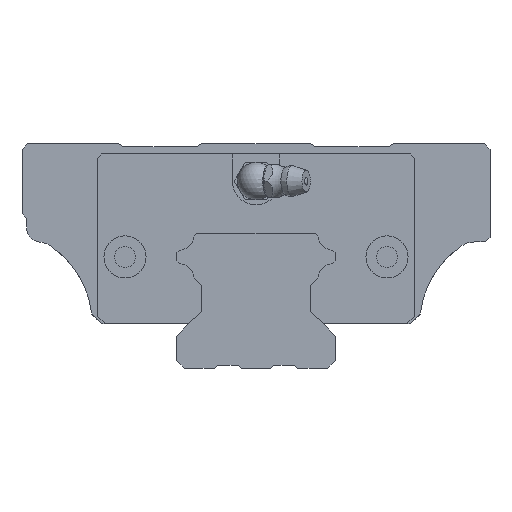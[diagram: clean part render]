
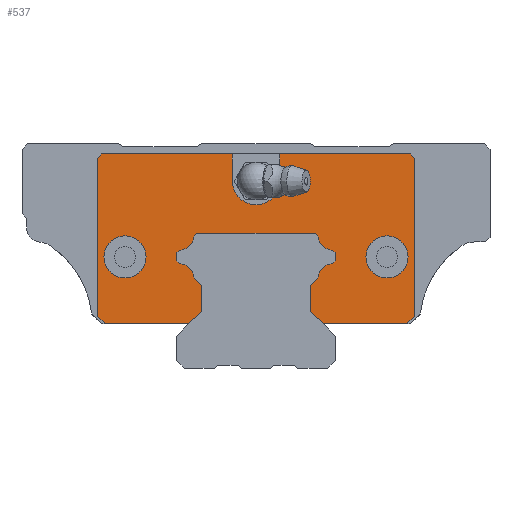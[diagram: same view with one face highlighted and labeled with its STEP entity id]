
A CAD part, front view. The second image highlights one B-rep face of the part: STEP entity #537.
In plain terms, the highlighted planar face has unit normal (0, -1, 0).
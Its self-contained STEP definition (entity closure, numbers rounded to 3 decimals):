
#214=FACE_BOUND('',#1125,.T.);
#215=FACE_BOUND('',#1126,.T.);
#343=CIRCLE('',#4285,3.5);
#345=CIRCLE('',#4291,3.5);
#347=CIRCLE('',#4297,3.5);
#349=CIRCLE('',#4303,3.5);
#359=CIRCLE('',#4348,4.5);
#360=CIRCLE('',#4349,4.5);
#361=CIRCLE('',#4350,5.05);
#537=ADVANCED_FACE('',(#214,#215,#904),#714,.F.);
#714=PLANE('',#4351);
#904=FACE_OUTER_BOUND('',#1127,.T.);
#1125=EDGE_LOOP('',(#1900));
#1126=EDGE_LOOP('',(#1901));
#1127=EDGE_LOOP('',(#1902,#1903,#1904,#1905,#1906,#1907,#1908,#1909,#1910,
#1911,#1912,#1913,#1914,#1915,#1916,#1917,#1918,#1919,#1920,#1921,#1922,
#1923,#1924,#1925,#1926,#1927,#1928,#1929,#1930,#1931,#1932,#1933));
#1900=ORIENTED_EDGE('',*,*,#3144,.F.);
#1901=ORIENTED_EDGE('',*,*,#3145,.F.);
#1902=ORIENTED_EDGE('',*,*,#3146,.F.);
#1903=ORIENTED_EDGE('',*,*,#3147,.F.);
#1904=ORIENTED_EDGE('',*,*,#3148,.T.);
#1905=ORIENTED_EDGE('',*,*,#3141,.F.);
#1906=ORIENTED_EDGE('',*,*,#3149,.F.);
#1907=ORIENTED_EDGE('',*,*,#3150,.F.);
#1908=ORIENTED_EDGE('',*,*,#3151,.T.);
#1909=ORIENTED_EDGE('',*,*,#3009,.T.);
#1910=ORIENTED_EDGE('',*,*,#3014,.T.);
#1911=ORIENTED_EDGE('',*,*,#3017,.F.);
#1912=ORIENTED_EDGE('',*,*,#3020,.F.);
#1913=ORIENTED_EDGE('',*,*,#3023,.T.);
#1914=ORIENTED_EDGE('',*,*,#3026,.F.);
#1915=ORIENTED_EDGE('',*,*,#3029,.F.);
#1916=ORIENTED_EDGE('',*,*,#3032,.T.);
#1917=ORIENTED_EDGE('',*,*,#3035,.T.);
#1918=ORIENTED_EDGE('',*,*,#3038,.T.);
#1919=ORIENTED_EDGE('',*,*,#3041,.T.);
#1920=ORIENTED_EDGE('',*,*,#3044,.F.);
#1921=ORIENTED_EDGE('',*,*,#3047,.T.);
#1922=ORIENTED_EDGE('',*,*,#3050,.F.);
#1923=ORIENTED_EDGE('',*,*,#3053,.T.);
#1924=ORIENTED_EDGE('',*,*,#3056,.T.);
#1925=ORIENTED_EDGE('',*,*,#3059,.T.);
#1926=ORIENTED_EDGE('',*,*,#3062,.T.);
#1927=ORIENTED_EDGE('',*,*,#3065,.T.);
#1928=ORIENTED_EDGE('',*,*,#3068,.F.);
#1929=ORIENTED_EDGE('',*,*,#3072,.F.);
#1930=ORIENTED_EDGE('',*,*,#3152,.T.);
#1931=ORIENTED_EDGE('',*,*,#3153,.F.);
#1932=ORIENTED_EDGE('',*,*,#3154,.F.);
#1933=ORIENTED_EDGE('',*,*,#3138,.F.);
#2554=VERTEX_POINT('',#6307);
#2555=VERTEX_POINT('',#6309);
#2558=VERTEX_POINT('',#6317);
#2560=VERTEX_POINT('',#6323);
#2562=VERTEX_POINT('',#6329);
#2564=VERTEX_POINT('',#6335);
#2566=VERTEX_POINT('',#6341);
#2568=VERTEX_POINT('',#6347);
#2570=VERTEX_POINT('',#6353);
#2572=VERTEX_POINT('',#6359);
#2574=VERTEX_POINT('',#6365);
#2576=VERTEX_POINT('',#6371);
#2578=VERTEX_POINT('',#6377);
#2580=VERTEX_POINT('',#6383);
#2582=VERTEX_POINT('',#6389);
#2584=VERTEX_POINT('',#6395);
#2586=VERTEX_POINT('',#6401);
#2588=VERTEX_POINT('',#6407);
#2590=VERTEX_POINT('',#6413);
#2592=VERTEX_POINT('',#6419);
#2594=VERTEX_POINT('',#6425);
#2597=VERTEX_POINT('',#6433);
#2637=VERTEX_POINT('',#6569);
#2638=VERTEX_POINT('',#6571);
#2639=VERTEX_POINT('',#6574);
#2640=VERTEX_POINT('',#6576);
#2642=VERTEX_POINT('',#6582);
#2643=VERTEX_POINT('',#6584);
#2644=VERTEX_POINT('',#6586);
#2645=VERTEX_POINT('',#6588);
#2646=VERTEX_POINT('',#6591);
#2647=VERTEX_POINT('',#6593);
#2648=VERTEX_POINT('',#6596);
#2649=VERTEX_POINT('',#6598);
#3009=EDGE_CURVE('',#2555,#2554,#3492,.T.);
#3014=EDGE_CURVE('',#2554,#2558,#3497,.T.);
#3017=EDGE_CURVE('',#2560,#2558,#3500,.T.);
#3020=EDGE_CURVE('',#2562,#2560,#3503,.T.);
#3023=EDGE_CURVE('',#2562,#2564,#343,.T.);
#3026=EDGE_CURVE('',#2566,#2564,#3507,.T.);
#3029=EDGE_CURVE('',#2568,#2566,#3510,.T.);
#3032=EDGE_CURVE('',#2568,#2570,#3513,.T.);
#3035=EDGE_CURVE('',#2570,#2572,#345,.T.);
#3038=EDGE_CURVE('',#2572,#2574,#3517,.T.);
#3041=EDGE_CURVE('',#2574,#2576,#3520,.T.);
#3044=EDGE_CURVE('',#2578,#2576,#3523,.T.);
#3047=EDGE_CURVE('',#2578,#2580,#347,.T.);
#3050=EDGE_CURVE('',#2582,#2580,#3527,.T.);
#3053=EDGE_CURVE('',#2582,#2584,#3530,.T.);
#3056=EDGE_CURVE('',#2584,#2586,#3533,.T.);
#3059=EDGE_CURVE('',#2586,#2588,#349,.T.);
#3062=EDGE_CURVE('',#2588,#2590,#3537,.T.);
#3065=EDGE_CURVE('',#2590,#2592,#3540,.T.);
#3068=EDGE_CURVE('',#2594,#2592,#3543,.T.);
#3072=EDGE_CURVE('',#2597,#2594,#3547,.T.);
#3138=EDGE_CURVE('',#2637,#2638,#3604,.T.);
#3141=EDGE_CURVE('',#2639,#2640,#3607,.T.);
#3144=EDGE_CURVE('',#2642,#2642,#359,.T.);
#3145=EDGE_CURVE('',#2643,#2643,#360,.T.);
#3146=EDGE_CURVE('',#2644,#2637,#3610,.T.);
#3147=EDGE_CURVE('',#2645,#2644,#361,.T.);
#3148=EDGE_CURVE('',#2645,#2640,#3611,.T.);
#3149=EDGE_CURVE('',#2646,#2639,#3612,.T.);
#3150=EDGE_CURVE('',#2647,#2646,#3613,.T.);
#3151=EDGE_CURVE('',#2647,#2555,#3614,.T.);
#3152=EDGE_CURVE('',#2597,#2648,#3615,.T.);
#3153=EDGE_CURVE('',#2649,#2648,#3616,.T.);
#3154=EDGE_CURVE('',#2638,#2649,#3617,.T.);
#3492=LINE('',#6308,#3886);
#3497=LINE('',#6318,#3891);
#3500=LINE('',#6324,#3894);
#3503=LINE('',#6330,#3897);
#3507=LINE('',#6342,#3901);
#3510=LINE('',#6348,#3904);
#3513=LINE('',#6354,#3907);
#3517=LINE('',#6366,#3911);
#3520=LINE('',#6372,#3914);
#3523=LINE('',#6378,#3917);
#3527=LINE('',#6390,#3921);
#3530=LINE('',#6396,#3924);
#3533=LINE('',#6402,#3927);
#3537=LINE('',#6414,#3931);
#3540=LINE('',#6420,#3934);
#3543=LINE('',#6426,#3937);
#3547=LINE('',#6434,#3941);
#3604=LINE('',#6570,#3998);
#3607=LINE('',#6575,#4001);
#3610=LINE('',#6585,#4004);
#3611=LINE('',#6589,#4005);
#3612=LINE('',#6590,#4006);
#3613=LINE('',#6592,#4007);
#3614=LINE('',#6594,#4008);
#3615=LINE('',#6595,#4009);
#3616=LINE('',#6597,#4010);
#3617=LINE('',#6599,#4011);
#3886=VECTOR('',#4916,1.);
#3891=VECTOR('',#4923,1.);
#3894=VECTOR('',#4928,1.);
#3897=VECTOR('',#4933,1.);
#3901=VECTOR('',#4945,1.);
#3904=VECTOR('',#4950,1.);
#3907=VECTOR('',#4955,1.);
#3911=VECTOR('',#4967,1.);
#3914=VECTOR('',#4972,1.);
#3917=VECTOR('',#4977,1.);
#3921=VECTOR('',#4989,1.);
#3924=VECTOR('',#4994,1.);
#3927=VECTOR('',#4999,1.);
#3931=VECTOR('',#5011,1.);
#3934=VECTOR('',#5016,1.);
#3937=VECTOR('',#5021,1.);
#3941=VECTOR('',#5027,1.);
#3998=VECTOR('',#5162,1.);
#4001=VECTOR('',#5165,1.);
#4004=VECTOR('',#5174,1.);
#4005=VECTOR('',#5177,1.);
#4006=VECTOR('',#5178,1.);
#4007=VECTOR('',#5179,1.);
#4008=VECTOR('',#5180,1.);
#4009=VECTOR('',#5181,1.);
#4010=VECTOR('',#5182,1.);
#4011=VECTOR('',#5183,1.);
#4285=AXIS2_PLACEMENT_3D('',#6336,#4939,#4940);
#4291=AXIS2_PLACEMENT_3D('',#6360,#4961,#4962);
#4297=AXIS2_PLACEMENT_3D('',#6384,#4983,#4984);
#4303=AXIS2_PLACEMENT_3D('',#6408,#5005,#5006);
#4348=AXIS2_PLACEMENT_3D('',#6581,#5170,#5171);
#4349=AXIS2_PLACEMENT_3D('',#6583,#5172,#5173);
#4350=AXIS2_PLACEMENT_3D('',#6587,#5175,#5176);
#4351=AXIS2_PLACEMENT_3D('',#6600,#5184,#5185);
#4916=DIRECTION('',(1.,0.,0.));
#4923=DIRECTION('',(0.707,0.,0.707));
#4928=DIRECTION('',(0.,0.,-1.));
#4933=DIRECTION('',(0.707,0.,-0.707));
#4939=DIRECTION('',(0.,-1.,0.));
#4940=DIRECTION('',(1.,0.,0.));
#4945=DIRECTION('',(0.707,0.,-0.707));
#4950=DIRECTION('',(0.,0.,-1.));
#4955=DIRECTION('',(0.707,0.,0.707));
#4961=DIRECTION('',(0.,-1.,0.));
#4962=DIRECTION('',(1.,0.,0.));
#4967=DIRECTION('',(0.707,0.,0.707));
#4972=DIRECTION('',(1.,0.,0.));
#4977=DIRECTION('',(-0.707,0.,0.707));
#4983=DIRECTION('',(0.,-1.,0.));
#4984=DIRECTION('',(1.,0.,0.));
#4989=DIRECTION('',(-0.707,0.,0.707));
#4994=DIRECTION('',(0.,0.,-1.));
#4999=DIRECTION('',(-0.707,0.,-0.707));
#5005=DIRECTION('',(0.,-1.,0.));
#5006=DIRECTION('',(1.,0.,0.));
#5011=DIRECTION('',(-0.707,0.,-0.707));
#5016=DIRECTION('',(0.,0.,-1.));
#5021=DIRECTION('',(-0.707,0.,0.707));
#5027=DIRECTION('',(-1.,0.,0.));
#5162=DIRECTION('',(1.,0.,0.));
#5165=DIRECTION('',(1.,0.,0.));
#5170=DIRECTION('',(0.,-1.,0.));
#5171=DIRECTION('',(0.,0.,-1.));
#5172=DIRECTION('',(0.,-1.,0.));
#5173=DIRECTION('',(0.,0.,-1.));
#5174=DIRECTION('',(0.,0.,1.));
#5175=DIRECTION('',(0.,-1.,0.));
#5176=DIRECTION('',(1.,0.,0.));
#5177=DIRECTION('',(0.,0.,1.));
#5178=DIRECTION('',(0.707,0.,0.707));
#5179=DIRECTION('',(0.,0.,1.));
#5180=DIRECTION('',(0.707,0.,-0.707));
#5181=DIRECTION('',(0.707,0.,0.707));
#5182=DIRECTION('',(0.,0.,-1.));
#5183=DIRECTION('',(0.707,0.,-0.707));
#5184=DIRECTION('',(0.,1.,0.));
#5185=DIRECTION('',(0.,0.,-1.));
#6307=CARTESIAN_POINT('',(-14.359,-99.1,-40.5));
#6308=CARTESIAN_POINT('',(-32.218,-99.1,-40.5));
#6309=CARTESIAN_POINT('',(-32.218,-99.1,-40.5));
#6317=CARTESIAN_POINT('',(-11.7,-99.1,-37.841));
#6318=CARTESIAN_POINT('',(-14.359,-99.1,-40.5));
#6323=CARTESIAN_POINT('',(-11.7,-99.1,-32.259));
#6324=CARTESIAN_POINT('',(-11.7,-99.1,-32.259));
#6329=CARTESIAN_POINT('',(-13.204,-99.1,-30.754));
#6330=CARTESIAN_POINT('',(-13.204,-99.1,-30.754));
#6335=CARTESIAN_POINT('',(-16.354,-99.1,-27.604));
#6336=CARTESIAN_POINT('',(-16.688,-99.1,-31.088));
#6341=CARTESIAN_POINT('',(-16.9,-99.1,-27.059));
#6342=CARTESIAN_POINT('',(-16.9,-99.1,-27.059));
#6347=CARTESIAN_POINT('',(-16.9,-99.1,-25.341));
#6348=CARTESIAN_POINT('',(-16.9,-99.1,-25.341));
#6353=CARTESIAN_POINT('',(-16.354,-99.1,-24.796));
#6354=CARTESIAN_POINT('',(-16.9,-99.1,-25.341));
#6359=CARTESIAN_POINT('',(-13.204,-99.1,-21.646));
#6360=CARTESIAN_POINT('',(-16.688,-99.1,-21.312));
#6365=CARTESIAN_POINT('',(-12.659,-99.1,-21.1));
#6366=CARTESIAN_POINT('',(-13.204,-99.1,-21.646));
#6371=CARTESIAN_POINT('',(12.659,-99.1,-21.1));
#6372=CARTESIAN_POINT('',(-12.659,-99.1,-21.1));
#6377=CARTESIAN_POINT('',(13.204,-99.1,-21.646));
#6378=CARTESIAN_POINT('',(13.204,-99.1,-21.646));
#6383=CARTESIAN_POINT('',(16.354,-99.1,-24.796));
#6384=CARTESIAN_POINT('',(16.688,-99.1,-21.312));
#6389=CARTESIAN_POINT('',(16.9,-99.1,-25.341));
#6390=CARTESIAN_POINT('',(16.9,-99.1,-25.341));
#6395=CARTESIAN_POINT('',(16.9,-99.1,-27.059));
#6396=CARTESIAN_POINT('',(16.9,-99.1,-25.341));
#6401=CARTESIAN_POINT('',(16.354,-99.1,-27.604));
#6402=CARTESIAN_POINT('',(16.9,-99.1,-27.059));
#6407=CARTESIAN_POINT('',(13.204,-99.1,-30.754));
#6408=CARTESIAN_POINT('',(16.688,-99.1,-31.088));
#6413=CARTESIAN_POINT('',(11.7,-99.1,-32.259));
#6414=CARTESIAN_POINT('',(13.204,-99.1,-30.754));
#6419=CARTESIAN_POINT('',(11.7,-99.1,-37.841));
#6420=CARTESIAN_POINT('',(11.7,-99.1,-32.259));
#6425=CARTESIAN_POINT('',(14.359,-99.1,-40.5));
#6426=CARTESIAN_POINT('',(14.359,-99.1,-40.5));
#6433=CARTESIAN_POINT('',(32.217,-99.1,-40.5));
#6434=CARTESIAN_POINT('',(32.217,-99.1,-40.5));
#6569=CARTESIAN_POINT('',(5.05,-99.1,-4.2));
#6570=CARTESIAN_POINT('',(-32.917,-99.1,-4.2));
#6571=CARTESIAN_POINT('',(32.917,-99.1,-4.2));
#6574=CARTESIAN_POINT('',(-32.917,-99.1,-4.2));
#6575=CARTESIAN_POINT('',(-32.917,-99.1,-4.2));
#6576=CARTESIAN_POINT('',(-5.05,-99.1,-4.2));
#6581=CARTESIAN_POINT('',(-28.,-99.1,-26.2));
#6582=CARTESIAN_POINT('',(-28.,-99.1,-30.7));
#6583=CARTESIAN_POINT('',(28.,-99.1,-26.2));
#6584=CARTESIAN_POINT('',(28.,-99.1,-30.7));
#6585=CARTESIAN_POINT('',(5.05,-99.1,-10.));
#6586=CARTESIAN_POINT('',(5.05,-99.1,-10.));
#6587=CARTESIAN_POINT('',(0.,-99.1,-10.));
#6588=CARTESIAN_POINT('',(-5.05,-99.1,-10.));
#6589=CARTESIAN_POINT('',(-5.05,-99.1,-10.));
#6590=CARTESIAN_POINT('',(-33.8,-99.1,-5.083));
#6591=CARTESIAN_POINT('',(-33.8,-99.1,-5.083));
#6592=CARTESIAN_POINT('',(-33.8,-99.1,-38.918));
#6593=CARTESIAN_POINT('',(-33.8,-99.1,-38.918));
#6594=CARTESIAN_POINT('',(-33.8,-99.1,-38.918));
#6595=CARTESIAN_POINT('',(32.217,-99.1,-40.5));
#6596=CARTESIAN_POINT('',(33.8,-99.1,-38.917));
#6597=CARTESIAN_POINT('',(33.8,-99.1,-5.083));
#6598=CARTESIAN_POINT('',(33.8,-99.1,-5.083));
#6599=CARTESIAN_POINT('',(32.917,-99.1,-4.2));
#6600=CARTESIAN_POINT('',(16.688,-99.1,-31.088));
